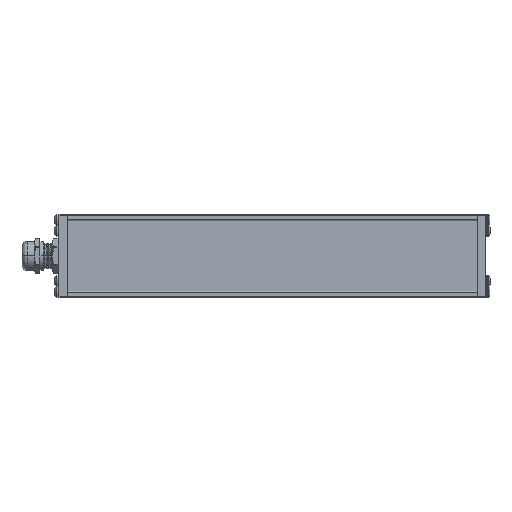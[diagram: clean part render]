
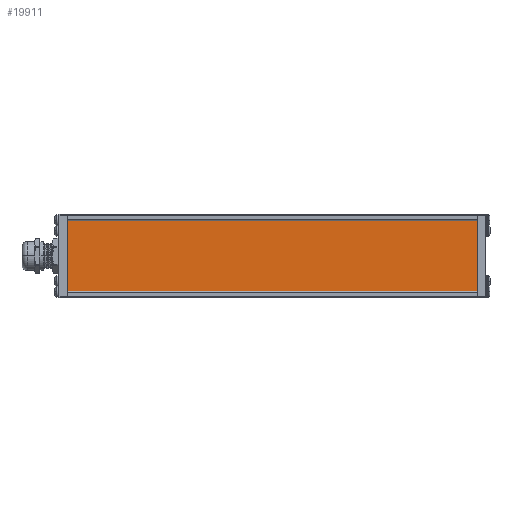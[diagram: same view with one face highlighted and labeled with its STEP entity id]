
A CAD part, front view. The second image highlights one B-rep face of the part: STEP entity #19911.
In plain terms, the highlighted planar face has unit normal (0, -1, 0) as drawn and (0, 1, 0) by its records, which use the part's own axes.
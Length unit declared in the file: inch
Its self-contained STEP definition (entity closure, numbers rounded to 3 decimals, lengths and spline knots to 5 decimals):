
#872 = EDGE_CURVE ( 'NONE', #4281, #2989, #10538, .T. ) ;
#1751 = VECTOR ( 'NONE', #26253, 39.37008 ) ;
#2890 = DIRECTION ( 'NONE',  ( 0., 0., 1. ) ) ;
#2989 = VERTEX_POINT ( 'NONE', #5007 ) ;
#3311 = FACE_OUTER_BOUND ( 'NONE', #13237, .T. ) ;
#3367 = EDGE_CURVE ( 'NONE', #2989, #10794, #32317, .T. ) ;
#3432 = ORIENTED_EDGE ( 'NONE', *, *, #872, .T. ) ;
#4028 = CARTESIAN_POINT ( 'NONE',  ( 3.135, 0.03, -0.586 ) ) ;
#4108 = LINE ( 'NONE', #4028, #1751 ) ;
#4281 = VERTEX_POINT ( 'NONE', #27115 ) ;
#4321 = VECTOR ( 'NONE', #2890, 39.37008 ) ;
#5007 = CARTESIAN_POINT ( 'NONE',  ( -3.135, 0.03, 0.586 ) ) ;
#5091 = DIRECTION ( 'NONE',  ( 0., 1., 0. ) ) ;
#8887 = ORIENTED_EDGE ( 'NONE', *, *, #28036, .T. ) ;
#9336 = VECTOR ( 'NONE', #30916, 39.37008 ) ;
#10464 = ORIENTED_EDGE ( 'NONE', *, *, #20841, .T. ) ;
#10538 = LINE ( 'NONE', #17889, #4321 ) ;
#10794 = VERTEX_POINT ( 'NONE', #20606 ) ;
#11128 = VERTEX_POINT ( 'NONE', #22556 ) ;
#11839 = CARTESIAN_POINT ( 'NONE',  ( -3.135, 0.03, 0.586 ) ) ;
#13237 = EDGE_LOOP ( 'NONE', ( #3432, #28771, #10464, #8887 ) ) ;
#14314 = VECTOR ( 'NONE', #19948, 39.37008 ) ;
#16010 = LINE ( 'NONE', #17980, #9336 ) ;
#17889 = CARTESIAN_POINT ( 'NONE',  ( -3.135, 0.03, -0.586 ) ) ;
#17980 = CARTESIAN_POINT ( 'NONE',  ( -3.135, 0.03, -0.586 ) ) ;
#19911 = ADVANCED_FACE ( 'NONE', ( #3311 ), #22562, .T. ) ;
#19948 = DIRECTION ( 'NONE',  ( 1., 0., 0. ) ) ;
#19949 = CARTESIAN_POINT ( 'NONE',  ( -3.135, 0.03, 0.586 ) ) ;
#20606 = CARTESIAN_POINT ( 'NONE',  ( 3.135, 0.03, 0.586 ) ) ;
#20841 = EDGE_CURVE ( 'NONE', #10794, #11128, #4108, .T. ) ;
#22556 = CARTESIAN_POINT ( 'NONE',  ( 3.135, 0.03, -0.586 ) ) ;
#22562 = PLANE ( 'NONE',  #29198 ) ;
#22888 = DIRECTION ( 'NONE',  ( 0., 0., 1. ) ) ;
#26253 = DIRECTION ( 'NONE',  ( 0., 0., -1. ) ) ;
#27115 = CARTESIAN_POINT ( 'NONE',  ( -3.135, 0.03, -0.586 ) ) ;
#28036 = EDGE_CURVE ( 'NONE', #11128, #4281, #16010, .T. ) ;
#28771 = ORIENTED_EDGE ( 'NONE', *, *, #3367, .T. ) ;
#29198 = AXIS2_PLACEMENT_3D ( 'NONE', #19949, #5091, #22888 ) ;
#30916 = DIRECTION ( 'NONE',  ( -1., 0., 0. ) ) ;
#32317 = LINE ( 'NONE', #11839, #14314 ) ;
